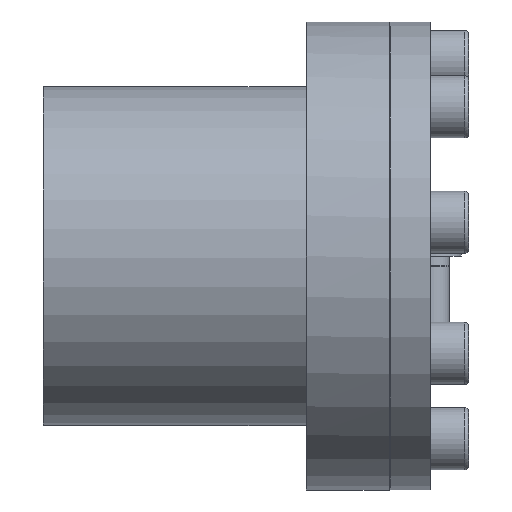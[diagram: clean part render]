
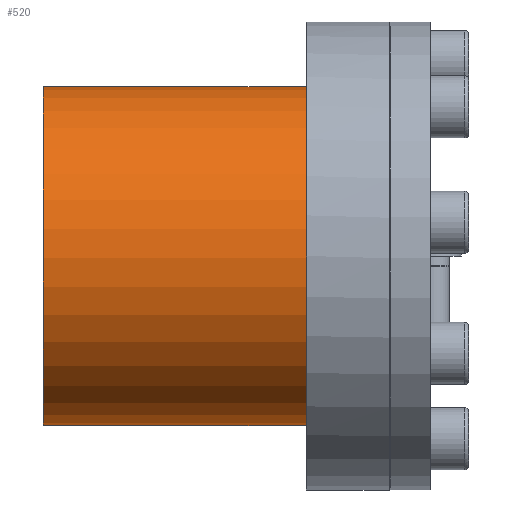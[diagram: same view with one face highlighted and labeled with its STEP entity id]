
A CAD part, left-side view. The second image highlights one B-rep face of the part: STEP entity #520.
In plain terms, the highlighted cylindrical face has radius 35.5 mm (diameter 71 mm), a partial arc.
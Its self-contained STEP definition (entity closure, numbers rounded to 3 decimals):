
#520 = ADVANCED_FACE( '', ( #960 ), #961, .T. );
#960 = FACE_OUTER_BOUND( '', #1598, .T. );
#961 = CYLINDRICAL_SURFACE( '', #1599, 35.5 );
#1598 = EDGE_LOOP( '', ( #2357, #2358, #2359, #2360 ) );
#1599 = AXIS2_PLACEMENT_3D( '', #2361, #2362, #2363 );
#2357 = ORIENTED_EDGE( '', *, *, #3734, .F. );
#2358 = ORIENTED_EDGE( '', *, *, #3767, .F. );
#2359 = ORIENTED_EDGE( '', *, *, #3745, .F. );
#2360 = ORIENTED_EDGE( '', *, *, #3775, .T. );
#2361 = CARTESIAN_POINT( '', ( 0., -60., 0. ) );
#2362 = DIRECTION( '', ( 0., 1., 0. ) );
#2363 = DIRECTION( '', ( 0., 0., -1. ) );
#3734 = EDGE_CURVE( '', #4156, #4158, #4159, .F. );
#3745 = EDGE_CURVE( '', #4172, #4174, #4175, .T. );
#3767 = EDGE_CURVE( '', #4174, #4156, #4212, .T. );
#3775 = EDGE_CURVE( '', #4172, #4158, #4227, .T. );
#4156 = VERTEX_POINT( '', #4753 );
#4158 = VERTEX_POINT( '', #4756 );
#4159 = LINE( '', #4757, #4758 );
#4172 = VERTEX_POINT( '', #4780 );
#4174 = VERTEX_POINT( '', #4783 );
#4175 = LINE( '', #4784, #4785 );
#4212 = CIRCLE( '', #4829, 35.5 );
#4227 = CIRCLE( '', #4844, 35.5 );
#4753 = CARTESIAN_POINT( '', ( 13.09, 26., 32.999 ) );
#4756 = CARTESIAN_POINT( '', ( 13.09, 81., 32.999 ) );
#4757 = CARTESIAN_POINT( '', ( 13.09, -60., 32.999 ) );
#4758 = VECTOR( '', #5803, 1000. );
#4780 = CARTESIAN_POINT( '', ( 11.184, 81., 33.692 ) );
#4783 = CARTESIAN_POINT( '', ( 11.184, 26., 33.692 ) );
#4784 = CARTESIAN_POINT( '', ( 11.184, -60., 33.692 ) );
#4785 = VECTOR( '', #5820, 1000. );
#4829 = AXIS2_PLACEMENT_3D( '', #5873, #5874, #5875 );
#4844 = AXIS2_PLACEMENT_3D( '', #5897, #5898, #5899 );
#5803 = DIRECTION( '', ( 0., -1., 0. ) );
#5820 = DIRECTION( '', ( 0., -1., 0. ) );
#5873 = CARTESIAN_POINT( '', ( 0., 26., 0. ) );
#5874 = DIRECTION( '', ( 0., -1., 0. ) );
#5875 = DIRECTION( '', ( 0., 0., -1. ) );
#5897 = CARTESIAN_POINT( '', ( 0., 81., 0. ) );
#5898 = DIRECTION( '', ( 0., -1., 0. ) );
#5899 = DIRECTION( '', ( 0., 0., -1. ) );
